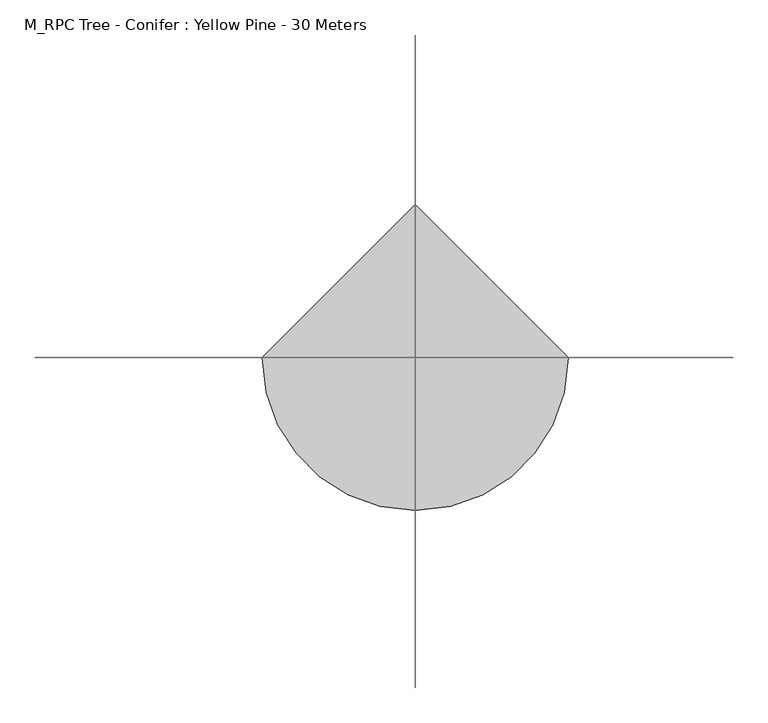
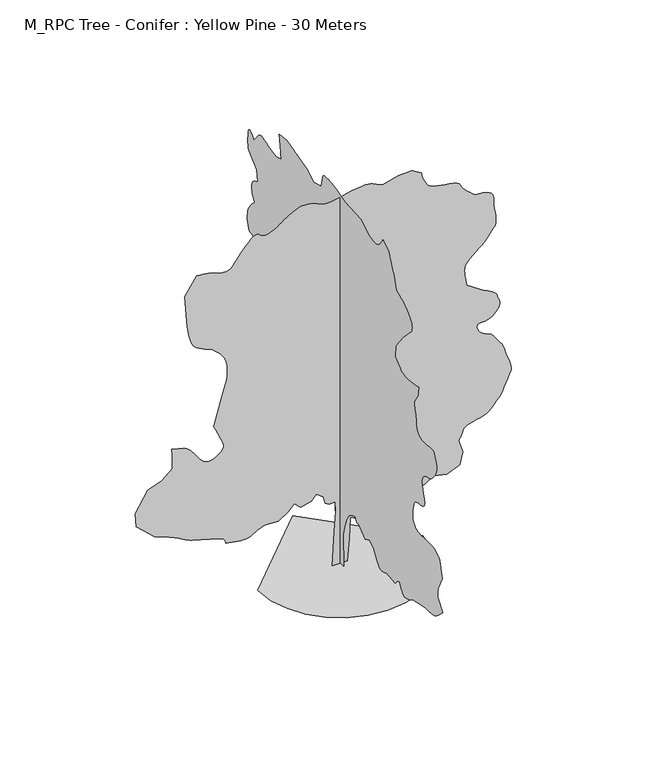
"""IFC4 building model written with IfcOpenShell, lengths in millimetres: geographic element geometry, M_RPC Tree - Conifer : Yellow Pine - 30 Meters."""

from ifc_helpers import new_model, si_unit, origin, place, context, project, spatial, triangles, source, transform, mapped, element, save


def m_rpc_tree_conifer_yellow_pine_30_meters_b7874818(model_context):
    return source(origin(), model_context, "Body", "Tessellation", [
        triangles([(0.1911075, 540.1071124, 0.0282224), (0.1911075, -497.4095733, 0.0282224), (0.1911075, -407.1894988, 2571.268634), (0.1911075, -587.6279763, 3338.1276398), (0.1911075, -858.2840212, 4059.8783524), (0.1911075, -1174.050939, 4556.0785881), (0.1911075, -1534.9262226, 4781.6287743), (0.1911075, -1986.0183105, 4962.0622375), (0.1911075, -2166.4600582, 4556.0785881), (0.1911075, -2482.226976, 4646.2954651), (0.1911075, -2843.1023323, 4285.4201088), (0.1911075, -3339.3025681, 3969.6530457), (0.1911075, -3925.7281105, 4240.3118156), (0.1911075, -4467.0369301, 3879.4364594), (0.1911075, -4827.9122864, 3247.9026237), (0.1911075, -4915.2371887, 3123.2273849), (0.1911075, -5004.5375519, 3004.4689362), (0.1911075, -5097.7789536, 2897.5522064), (0.1911075, -5196.945575, 2808.385556), (0.1911075, -5303.9960175, 2742.893914), (0.1911075, -5420.9127182, 2706.9856407), (0.1911075, -5549.662999, 2706.5938042), (0.1911075, -5673.1542984, 2728.5520569), (0.1911075, -5775.3463165, 2755.2521713), (0.1911075, -5859.7713959, 2785.8939056), (0.1911075, -5930.0048996, 2819.6938774), (0.1911075, -5989.5797516, 2855.8605652), (0.1911075, -6042.0550369, 2893.6105865), (0.1911075, -6090.9799576, 2932.1355606), (0.1911075, -7263.8223221, 2796.8106812), (0.1911075, -7379.4228241, 2930.3022423), (0.1911075, -7492.6560287, 3052.7357574), (0.1911075, -7601.1558014, 3153.0857368), (0.1911075, -7702.5560074, 3220.2859955), (0.1911075, -7794.4812103, 3243.3026138), (0.1911075, -7874.5728333, 3211.0859756), (0.1911075, -7940.4647415, 3112.5774536), (0.1911075, -8006.6147736, 2970.9358086), (0.1911075, -8088.5481445, 2824.5607315), (0.1911075, -8185.4730423, 2685.2855118), (0.1911075, -8296.6063751, 2564.9521591), (0.1911075, -8421.1731903, 2475.3936722), (0.1911075, -8558.3403992, 2428.443631), (0.1911075, -8707.3400253, 2435.9353249), (0.1911075, -8856.7570679, 2479.86026), (0.1911075, -8996.6741089, 2533.2520592), (0.1911075, -9128.6741913, 2594.5436668), (0.1911075, -9254.4240738, 2662.1439011), (0.1911075, -9375.4242462, 2734.4772766), (0.1911075, -9493.2577515, 2809.9604599), (0.1911075, -9609.5076324, 2887.0272675), (0.1911075, -11233.4259521, 3202.7943306), (0.1911075, -11436.0089355, 3203.1943062), (0.1911075, -11635.7595337, 3205.9525681), (0.1911075, -11830.0093048, 3213.4526917), (0.1911075, -12015.9258636, 3228.0442429), (0.1911075, -12190.8430939, 3252.1192268), (0.1911075, -12352.0100006, 3288.0193611), (0.1911075, -12496.5104828, 3338.1276398), (0.1911075, -12635.7601227, 3410.5860077), (0.1911075, -12782.176767, 3509.0945297), (0.1911075, -12934.4267761, 3629.30289), (0.1911075, -13091.5102112, 3766.8613541), (0.1911075, -13252.0934326, 3917.4448952), (0.1911075, -13415.0102325, 4076.7116272), (0.1911075, -13579.1769562, 4240.3118156), (0.1911075, -12947.5934143, 4962.0622375), (0.1911075, -12928.843396, 5097.2621246), (0.1911075, -12913.1769104, 5231.6707809), (0.1911075, -12903.8437592, 5364.495813), (0.1911075, -12903.927475, 5494.9628494), (0.1911075, -12916.6766968, 5622.2626373), (0.1911075, -12945.2598358, 5745.6295258), (0.1911075, -12992.7604248, 5864.2548431), (0.1911075, -13488.9278137, 6901.7723282), (0.1911075, -13173.1773193, 8164.831279), (0.1911075, -13148.4276672, 8199.6814774), (0.1911075, -13074.7600708, 8288.9818405), (0.1911075, -12953.0105255, 8409.8401611), (0.1911075, -12783.8441071, 8539.4235306), (0.1911075, -12568.1770386, 8654.7571884), (0.1911075, -12306.7592743, 8733.0070633), (0.1911075, -12000.3430939, 8751.2571121), (0.1911075, -11658.9255615, 8737.090535), (0.1911075, -11307.2586548, 8731.5071548), (0.1911075, -10968.1758636, 8732.3402435), (0.1911075, -10664.6746216, 8737.090535), (0.1911075, -10419.5081909, 8743.3401535), (0.1911075, -10255.6751678, 8748.9235336), (0.1911075, -10195.9253265, 8751.2571121), (0.1911075, -10160.9251373, 8775.0905411), (0.1911075, -10070.758548, 8842.2567902), (0.1911075, -9947.3416626, 8946.590538), (0.1911075, -9812.9242859, 9081.5904373), (0.1911075, -9689.5911163, 9241.1743011), (0.1911075, -9599.424527, 9418.8407822), (0.1911075, -9564.4243378, 9608.3408432), (0.1911075, -9571.0076569, 9797.674054), (0.1911075, -9589.424556, 9980.0082733), (0.1911075, -9617.6745758, 10156.3416962), (0.1911075, -9653.8409729, 10328.007962), (0.1911075, -9695.9244507, 10496.0918884), (0.1911075, -9741.9245499, 10661.7585205), (0.1911075, -9789.924527, 10826.2589447), (0.1911075, -9829.4244415, 10874.4257721), (0.1911075, -9873.5915131, 10921.3415131), (0.1911075, -9927.2580048, 10965.926001), (0.1911075, -9995.0910736, 11007.0083771), (0.1911075, -10081.9253082, 11043.25849), (0.1911075, -10192.4243774, 11073.675238), (0.1911075, -10331.2577637, 11096.9249817), (0.1911075, -10499.1754211, 11111.1752747), (0.1911075, -10680.5922546, 11127.7591461), (0.1911075, -10855.592038, 11165.5917206), (0.1911075, -11004.5922455, 11243.6753265), (0.1911075, -11107.8417572, 11381.0088043), (0.1911075, -11145.5917786, 11596.4258881), (0.1911075, -11098.0923523, 11908.9265808), (0.1911075, -11000.9250275, 12262.1759491), (0.1911075, -10911.675824, 12586.1771027), (0.1911075, -10843.6753235, 12879.5103607), (0.1911075, -10810.3424744, 13140.4269928), (0.1911075, -10825.2590057, 13367.4270905), (0.1911075, -10901.6752716, 13558.9270294), (0.1911075, -11053.0090576, 13713.2606323), (0.1911075, -11238.5919159, 13821.4272858), (0.1911075, -11410.759314, 13887.6778931), (0.1911075, -11572.5924591, 13931.0950104), (0.1911075, -11727.4260315, 13970.5112091), (0.1911075, -11878.259848, 14025.0113708), (0.1911075, -12028.3425476, 14113.3443512), (0.1911075, -12180.7599884, 14254.5950317), (0.1911075, -12336.0935303, 14434.261972), (0.1911075, -12484.2600677, 14625.761911), (0.1911075, -12612.7603638, 14829.8448029), (0.1911075, -12708.9265869, 15047.3454803), (0.1911075, -12760.0932312, 15279.0952881), (0.1911075, -12753.5936279, 15525.845343), (0.1911075, -12676.9273773, 15788.3455994), (0.1911075, -12584.3434937, 16036.5967255), (0.1911075, -12521.7601044, 16239.1797089), (0.1911075, -12463.9264252, 16394.3469818), (0.1911075, -12385.5102814, 16500.5963104), (0.1911075, -12261.3434418, 16556.3463959), (0.1911075, -12066.1762848, 16560.0136139), (0.1911075, -11774.7591888, 16510.0968933), (0.1911075, -11429.0093628, 16454.8467773), (0.1911075, -11096.6749969, 16443.7637329), (0.1911075, -10791.1750397, 16476.9303131), (0.1911075, -10525.9249512, 16554.2628021), (0.1911075, -10314.2588013, 16675.7635254), (0.1911075, -10169.7583191, 16841.5138733), (0.1911075, -10105.6750214, 17051.3464142), (0.1911075, -10083.7577545, 17275.5141266), (0.1911075, -10057.0919403, 17485.3478302), (0.1911075, -10026.4252075, 17683.4310883), (0.1911075, -9992.5912262, 17872.0137634), (0.1911075, -9956.4248291, 18053.5143127), (0.1911075, -9918.6748077, 18230.265152), (0.1911075, -9880.1748322, 18404.68125), (0.1911075, -9842.6747955, 18530.4317139), (0.1911075, -9812.3417633, 18656.5147156), (0.1911075, -9796.0915924, 18783.4313873), (0.1911075, -9801.2575562, 18911.5154297), (0.1911075, -9834.7578369, 19041.1819336), (0.1911075, -9903.8408295, 19172.8483154), (0.1911075, -10015.508432, 19306.8482758), (0.1911075, -10134.9243988, 19471.2661469), (0.1911075, -10225.0909882, 19677.4314697), (0.1911075, -10290.0916718, 19901.0154968), (0.1911075, -10333.7587738, 20117.5162354), (0.1911075, -10360.0920502, 20302.4328552), (0.1911075, -10372.9249878, 20431.2668518), (0.1911075, -10376.3410583, 20479.6825012), (0.1911075, -10309.841629, 20464.8508484), (0.1911075, -10131.2583435, 20427.0996643), (0.1911075, -9872.1741577, 20376.7655273), (0.1911075, -9564.174353, 20324.0152588), (0.1911075, -9238.7575882, 20279.1831116), (0.1911075, -8927.590535, 20252.4335815), (0.1911075, -8662.1735962, 20254.182312), (0.1911075, -8438.090181, 20293.1822571), (0.1911075, -8228.2152008, 20367.7660767), (0.1911075, -8030.1563599, 20471.934137), (0.1911075, -7841.5643829, 20599.7658691), (0.1911075, -7660.072554, 20745.3500061), (0.1911075, -7483.3228775, 20902.765979), (0.1911075, -7308.9306152, 21066.1001953), (0.1911075, -7354.0394897, 22013.4353943), (0.1911075, -8346.4231018, 23276.5187622), (0.1911075, -9474.1740326, 24449.351825), (0.1911075, -9491.8409775, 24594.7685303), (0.1911075, -9499.1742508, 24743.0199463), (0.1911075, -9486.0076126, 24896.7710266), (0.1911075, -9442.0911072, 25058.7704407), (0.1911075, -9357.1741974, 25231.8528992), (0.1911075, -9220.923793, 25418.6880066), (0.1911075, -9023.0905197, 25622.1872131), (0.1911075, -8791.0901459, 25817.7706238), (0.1911075, -8559.0903534, 25982.5210327), (0.1911075, -8327.114978, 26121.6869568), (0.1911075, -8095.1233246, 26240.2704163), (0.1911075, -7863.1310898, 26343.519928), (0.1911075, -7631.1394363, 26436.521228), (0.1911075, -7399.1477829, 26524.3554016), (0.1911075, -7331.4222656, 26755.687793), (0.1911075, -7263.2973541, 26983.1041443), (0.1911075, -7194.3806305, 27202.6046997), (0.1911075, -7124.2808395, 27410.2710938), (0.1911075, -7052.6055634, 27602.105896), (0.1911075, -6978.9641281, 27774.2721313), (0.1911075, -6902.9472565, 27922.7723694), (0.1911075, -6818.6471695, 28084.6880676), (0.1911075, -6725.6638916, 28284.4386658), (0.1911075, -6631.8969406, 28499.1883484), (0.1911075, -6545.2301376, 28706.0222351), (0.1911075, -6473.5554428, 28882.1905518), (0.1911075, -6424.7636536, 29004.6063354), (0.1911075, -6406.738591, 29050.5221375), (0.1911075, -5639.8795853, 29501.6062317), (0.1911075, -5600.5627991, 29423.857489), (0.1911075, -5557.296254, 29343.7740051), (0.1911075, -5506.1296097, 29258.9396484), (0.1911075, -5443.1375244, 29167.0243286), (0.1911075, -5364.3626816, 29065.6072632), (0.1911075, -5265.8541595, 28952.3560364), (0.1911075, -5143.6790588, 28824.9405579), (0.1911075, -4996.5124603, 28714.6054321), (0.1911075, -4828.0454178, 28649.2722107), (0.1911075, -4641.8204475, 28621.3553101), (0.1911075, -4441.3951813, 28623.4389038), (0.1911075, -4230.3118446, 28648.0234497), (0.1911075, -4012.1280693, 28687.6070801), (0.1911075, -3790.3948013, 28734.6902527), (0.1911075, -2797.9856094, 29411.3559265), (0.1911075, -632.7371778, 29546.6895264), (0.1911075, -353.0069412, 29623.6080872), (0.1911075, -76.8265606, 29698.1895813), (0.1911075, 192.2518189, 29768.0248535), (0.1911075, 450.6770333, 29830.7745117), (0.1911075, 694.8988632, 29884.0247498), (0.1911075, 921.36738, 29925.4408264), (0.1911075, 1126.5259329, 29952.6903259), (0.1911075, 1328.8010136, 29973.4402222), (0.1911075, 1540.5346012, 29991.8577026), (0.1911075, 1749.1180904, 30000.024646), (0.1911075, 1941.9182407, 29990.0229309), (0.1911075, 2106.3099506, 29954.0228027), (0.1911075, 2229.6684093, 29884.0247498), (0.1911075, 2299.3767998, 29772.2734314), (0.1911075, 2524.9185562, 28870.0238525), (0.1911075, 3517.3277481, 28599.4403687), (0.1911075, 4419.520063, 29140.6910522), (0.1911075, 5547.254425, 29411.3559265), (0.1911075, 7035.8641434, 29862.4400208), (0.1911075, 8028.2733353, 29727.1064209), (0.1911075, 7938.0480286, 28870.0238525), (0.1911075, 7757.6142746, 27877.6890747), (0.1911075, 8479.3399887, 27652.1051697), (0.1911075, 9201.0907013, 27787.4387695), (0.1911075, 9480.1742477, 27892.2719055), (0.1911075, 9751.7576706, 27988.021875), (0.1911075, 10008.3414276, 28065.6055115), (0.1911075, 10242.4248138, 28115.9396484), (0.1911075, 10446.5914215, 28130.0225098), (0.1911075, 10613.1754395, 28098.6895386), (0.1911075, 10734.8424316, 28012.9389587), (0.1911075, 11411.5092682, 27201.0210754), (0.1911075, 11565.2591858, 27380.7728943), (0.1911075, 11713.4257233, 27537.272644), (0.1911075, 11850.5929321, 27647.2729065), (0.1911075, 11971.1762695, 27687.3565063), (0.1911075, 12069.6760712, 27634.3550903), (0.1911075, 12140.5926727, 27464.9375244), (0.1911075, 12178.3426941, 27155.8540649), (0.1911075, 12189.7594391, 26812.605249), (0.1911075, 12187.0096069, 26547.5214294), (0.1911075, 12172.4267761, 26347.4382935), (0.1911075, 12148.3433624, 26199.5217407), (0.1911075, 12117.1766602, 26090.6051331), (0.1911075, 12081.2590851, 26007.7706543), (0.1911075, 12043.0090942, 25937.9377075), (0.1911075, 11005.5084686, 25080.8528137), (0.1911075, 10915.2581635, 24133.603656), (0.1911075, 11059.5086609, 24074.7700378), (0.1911075, 11199.5094177, 24011.2692627), (0.1911075, 11330.7595459, 23938.2690674), (0.1911075, 11448.925589, 23851.1022949), (0.1911075, 11549.8426849, 23744.9366821), (0.1911075, 11629.008783, 23615.1027466), (0.1911075, 11682.0927521, 23456.9356567), (0.1911075, 11702.4263947, 23282.9346497), (0.1911075, 11689.5097412, 23108.935968), (0.1911075, 11649.0098877, 22934.9349609), (0.1911075, 11586.4264984, 22760.9339539), (0.1911075, 11507.2592377, 22586.9352722), (0.1911075, 11417.0089325, 22412.9342651), (0.1911075, 11321.258963, 22238.9355835), (0.1911075, 11465.6757294, 22093.9351318), (0.1911075, 11606.5089935, 21948.4347107), (0.1911075, 11740.2589691, 21802.1831726), (0.1911075, 11863.3433167, 21654.7665894), (0.1911075, 11972.2599243, 21505.7663818), (0.1911075, 12063.4264526, 21354.7662964), (0.1911075, 12133.2593994, 21201.4337952), (0.1911075, 12183.3435516, 21052.017334), (0.1911075, 12219.259964, 20912.100293), (0.1911075, 12243.3433777, 20780.0990479), (0.1911075, 12257.9262085, 20654.3509094), (0.1911075, 12265.4269135, 20533.3489929), (0.1911075, 12268.1767456, 20415.5166504), (0.1911075, 12268.5929993, 20299.2656067), (0.1911075, 11997.9257996, 19532.4333435), (0.1911075, 11872.3427673, 19512.2648071), (0.1911075, 11747.0922729, 19487.4326019), (0.1911075, 11622.6754486, 19453.0986511), (0.1911075, 11499.4259949, 19404.5992859), (0.1911075, 11377.8427185, 19337.0987549), (0.1911075, 11258.0918884, 19245.9322266), (0.1911075, 11140.8420685, 19126.4325439), (0.1911075, 11034.0090546, 18984.515625), (0.1911075, 10943.8424652, 18830.7645447), (0.1911075, 10867.4250366, 18667.1815063), (0.1911075, 10802.0080994, 18495.6815094), (0.1911075, 10744.9255371, 18318.2644318), (0.1911075, 10693.4251923, 18136.9313141), (0.1911075, 10644.5921265, 17953.5971558), (0.1911075, 10539.0078735, 17808.514151), (0.1911075, 10437.7582397, 17663.0974457), (0.1911075, 10345.1755188, 17516.8470703), (0.1911075, 10265.5920044, 17369.3467712), (0.1911075, 10203.4248688, 17220.3465637), (0.1911075, 10162.8412994, 17069.4301941), (0.1911075, 10148.4247375, 16916.0965302), (0.1911075, 10193.5080322, 15698.0964569), (0.1911075, 10299.0911224, 15687.4296661), (0.1911075, 10400.424472, 15670.8457947), (0.1911075, 10493.0083557, 15642.5126404), (0.1911075, 10572.5081543, 15596.3456909), (0.1911075, 10634.7590057, 15526.5127441), (0.1911075, 10675.2588593, 15427.0118408), (0.1911075, 10689.7579742, 15292.0956573), (0.1911075, 10685.7582184, 15136.1784302), (0.1911075, 10674.7588898, 14977.7625183), (0.1911075, 10657.7587646, 14817.5118347), (0.1911075, 10636.0914825, 14655.5949738), (0.1911075, 10610.841861, 14492.5119049), (0.1911075, 10583.1749451, 14328.6777191), (0.1911075, 10554.4255371, 14164.3447266), (0.1911075, 10509.2585266, 13262.1777008), (0.1911075, 11366.3422577, 13307.3435486), (0.1911075, 12313.6762939, 13487.7604431), (0.1911075, 12515.2605011, 13419.5111206), (0.1911075, 12708.5940491, 13347.6771332), (0.1911075, 12885.3437256, 13268.7610199), (0.1911075, 13037.2600342, 13179.1769531), (0.1911075, 13156.0109253, 13075.4274719), (0.1911075, 13233.3434143, 12953.9267487), (0.1911075, 13260.9277771, 12811.0936066), (0.1911075, 13253.0933716, 12630.1767426), (0.1911075, 13231.0109985, 12401.8430054), (0.1911075, 13197.0107483, 12134.0930695), (0.1911075, 13153.6773468, 11834.7590149), (0.1911075, 13103.1769409, 11511.758963), (0.1911075, 13047.926825, 11172.9261566), (0.1911075, 12990.3442932, 10826.2589447), (0.1911075, 12584.3434937, 9743.6744431), (0.1911075, 12362.5930756, 9619.2576187), (0.1911075, 12144.4261597, 9502.340918), (0.1911075, 11933.3425323, 9400.4244644), (0.1911075, 11732.9256958, 9321.0072189), (0.1911075, 11546.6754364, 9271.5073334), (0.1911075, 11378.1752563, 9259.5906189), (0.1911075, 11231.0086578, 9292.5909302), (0.1911075, 9968.007843, 9833.8416138), (0.1911075, 8704.9238937, 9427.9239487), (0.1911075, 7802.7231491, 8796.3404068), (0.1911075, 6900.5386826, 7443.0811478), (0.1911075, 6813.2137802, 7308.53936), (0.1911075, 6723.9139984, 7178.7391434), (0.1911075, 6630.6638763, 7058.4057907), (0.1911075, 6531.505394, 6952.2721527), (0.1911075, 6424.4549515, 6865.0803818), (0.1911075, 6307.5382507, 6801.5551895), (0.1911075, 6178.7885513, 6766.4387283), (0.1911075, 6050.2963943, 6754.7388611), (0.1911075, 5929.6961975, 6755.6556656), (0.1911075, 5808.3047699, 6765.255661), (0.1911075, 5677.4546173, 6779.5885071), (0.1911075, 5528.4462708, 6794.7137466), (0.1911075, 5352.6128174, 6806.6804581), (0.1911075, 5141.2710663, 6811.5470215), (0.1911075, 4914.5372314, 6794.4556229), (0.1911075, 4697.2786903, 6746.5806381), (0.1911075, 4487.9036797, 6673.0636139), (0.1911075, 4284.8451439, 6579.0304001), (0.1911075, 4086.5200401, 6469.6132416), (0.1911075, 3891.3531738, 6349.9385696), (0.1911075, 3697.7696411, 6225.1299088), (0.1911075, 3427.1111618, 5458.270903), (0.1911075, 2660.2521561, 4601.1868813), (0.1911075, 2554.3769325, 4486.5034744), (0.1911075, 2431.9435627, 4374.1952133), (0.1911075, 2295.693449, 4263.8534019), (0.1911075, 2148.3934284, 4155.0949242), (0.1911075, 1992.8099018, 4047.5116653), (0.1911075, 1831.7098515, 3940.728067), (0.1911075, 1667.8429642, 3834.3281662), (0.1911075, 1397.1844849, 4781.6287743), (0.1911075, 946.0923969, 5413.1544708), (0.1911075, 765.6547915, 5007.1705307), (0.1911075, 630.3254791, 4375.6451248), (0.1911075, 585.2171496, 3247.9026237), (0.1911075, 494.9979109, 1669.0763191), (559.1288074, 0.0014306, 0.0714378), (-613.7138477, 0.0014306, 0.0714378), (-433.277841, 0.0012695, 2706.6353714), (-343.0586022, 0.0011748, 4285.461676), (-388.1678038, 0.0011266, 5097.4376953), (-839.2623625, 0.0011291, 5052.3288208), (-1155.0292803, 0.0011188, 5232.7625748), (-1290.3543777, 0.0010835, 5819.1878265), (-1831.6714817, 0.001062, 6180.0634735), (-2192.546838, 0.0010861, 5774.0795334), (-3004.5139915, 0.0010999, 5548.5293472), (-3500.722657, 0.0010732, 5999.6215805), (-3996.9231834, 0.0011024, 5503.4210541), (-4718.6736053, 0.0011291, 5052.3288208), (-5801.2999649, 0.0011266, 5097.4376953), (-6342.6087845, 0.0011403, 4871.8872185), (-6458.8755249, 0.0011455, 4785.47883), (-6576.7090302, 0.0011507, 4702.6286545), (-6697.7004822, 0.001155, 4626.878627), (-6823.4340866, 0.0011584, 4561.7785309), (-6955.4754456, 0.0011619, 4510.8787308), (-7095.4006256, 0.0011636, 4477.7368584), (-7244.8008087, 0.0011645, 4465.903569), (-7411.3011108, 0.0011645, 4471.161969), (-7599.1012756, 0.0011636, 4485.895372), (-7804.6515198, 0.0011619, 4508.5120148), (-8024.418338, 0.0011601, 4537.4454231), (-8254.8269485, 0.0011584, 4571.1119728), (-8492.3101273, 0.0011558, 4607.9370506), (-8733.3936676, 0.0011541, 4646.345462), (-8744.5604279, 0.0011481, 4742.7453918), (-8764.8103546, 0.0011421, 4837.5622787), (-8803.2271957, 0.0011369, 4929.2287766), (-8868.8941177, 0.0011317, 5016.1624237), (-8970.8105713, 0.0011266, 5096.7790146), (-9118.0608856, 0.0011222, 5169.5042267), (-9319.8107803, 0.0011188, 5232.7625748), (-11304.6460236, 0.0010835, 5819.1878265), (-11466.6454376, 0.0010809, 5870.6044556), (-11639.7290588, 0.0010766, 5943.3378067), (-11818.3135071, 0.0010714, 6031.0545456), (-11996.8967926, 0.0010654, 6127.4550568), (-12169.9804138, 0.0010594, 6226.2217026), (-12332.0635437, 0.0010542, 6321.0467285), (-12477.480249, 0.001049, 6405.6049393), (-12633.8974457, 0.0010439, 6486.8802109), (-12828.1472168, 0.0010387, 6575.2637695), (-13053.8973907, 0.0010327, 6669.5551071), (-13304.9809021, 0.0010275, 6768.5885971), (-13574.9807007, 0.0010215, 6871.1724518), (-13857.5646149, 0.0010146, 6976.1137207), (-14146.5644165, 0.0010086, 7082.2473587), (-15544.8988312, 0.0009302, 8390.4233231), (-15635.1491364, 0.0008656, 9473.0078247), (-14687.8151001, 0.0007743, 11006.7583923), (-13605.2311798, 0.0007502, 11412.7591919), (-12793.2307434, 0.0007097, 12089.4260284), (-12793.2307434, 0.0006485, 13126.9266541), (-12838.3965912, 0.0006158, 13668.2610535), (-11891.0625549, 0.0006296, 13442.6771484), (-11784.3958099, 0.0006339, 13373.9278564), (-11675.8129028, 0.0006382, 13298.4278137), (-11563.2290771, 0.0006434, 13209.5111481), (-11444.7293335, 0.0006494, 13100.5108246), (-11318.3126312, 0.000658, 12964.5935394), (-11182.0628082, 0.0006684, 12795.2596893), (-11033.9788239, 0.0006804, 12585.5934174), (-10883.8949615, 0.0006933, 12365.3429077), (-10739.3956421, 0.0007054, 12171.0931366), (-10594.8951599, 0.0007149, 12006.8426971), (-10444.8112976, 0.0007226, 11876.5099548), (-10283.7281067, 0.0007286, 11784.009787), (-10106.0610443, 0.0007312, 11733.4256653), (-9906.2278931, 0.0007312, 11728.5096863), (-9687.8109924, 0.0007286, 11778.50896), (-9467.8110489, 0.0007226, 11879.7597565), (-9261.1440125, 0.000714, 12017.343219), (-9082.977562, 0.0007045, 12176.1765472), (-8948.1439316, 0.0006951, 12341.3432098), (-8871.7270844, 0.0006856, 12497.8429596), (-8868.7272675, 0.0006778, 12630.676712), (-8921.8937897, 0.0006692, 12774.3435242), (-9001.0604691, 0.000658, 12967.6770721), (-9101.8938492, 0.0006434, 13202.4266968), (-9220.1441895, 0.0006279, 13470.2603485), (-9351.3943176, 0.0006106, 13763.011084), (-9491.3113586, 0.0005917, 14072.3445282), (-9635.5612747, 0.0005727, 14390.0111847), (-9004.0608673, 0.0004358, 16690.5137878), (-8917.6440491, 0.0004203, 16950.9304504), (-8834.810733, 0.0004048, 17207.7636108), (-8759.0607056, 0.0003902, 17457.5134827), (-8693.9768875, 0.0003755, 17696.6802795), (-8643.060228, 0.0003626, 17921.5142303), (-8609.8936478, 0.0003497, 18128.6806549), (-8598.0606491, 0.0003393, 18314.5146606), (-8601.1436005, 0.0003281, 18495.8477783), (-8611.2272873, 0.000317, 18688.2651031), (-8630.0604401, 0.0003049, 18886.1820923), (-8659.1435486, 0.0002928, 19084.0990814), (-8699.9771027, 0.0002816, 19276.5152435), (-8754.3104141, 0.0002704, 19457.8483612), (-8823.6439728, 0.000261, 19622.6813232), (-8912.8106232, 0.0002515, 19776.0161499), (-9023.3108551, 0.0002429, 19927.0162354), (-9151.4774506, 0.0002343, 20076.0164429), (-9293.894339, 0.0002248, 20223.4330261), (-9446.9774368, 0.0002162, 20369.6822388), (-9607.2281204, 0.0002076, 20515.0989441), (-9770.8942932, 0.000199, 20660.1831116), (-10030.8109863, 0.0001929, 20766.6835876), (-10283.9780914, 0.000186, 20874.4328247), (-10523.7285736, 0.00018, 20984.516803), (-10743.3116821, 0.0001731, 21098.1005676), (-10936.1452606, 0.0001662, 21216.5165955), (-11095.3960052, 0.0001585, 21340.7671509), (-11214.3957184, 0.0001507, 21472.1847107), (-11308.0620941, 0.0001404, 21647.3507629), (-11394.646344, 0.0001266, 21884.8502197), (-11472.4788025, 0.0001102, 22158.684668), (-11540.0630493, 9.3e-05, 22442.7673279), (-11595.8131348, 7.67e-05, 22711.018396), (-11638.1465973, 6.37e-05, 22937.5185242), (-11665.5623657, 5.43e-05, 23096.1018677), (-11845.9792603, -9.65e-05, 25622.1872131), (-10943.7285187, -0.00018, 27020.6041809), (-10702.7292755, -0.0001783, 26991.2710876), (-10465.228656, -0.0001766, 26960.0218323), (-10234.8113251, -0.000174, 26924.7704956), (-10014.9782318, -0.0001714, 26883.6055664), (-9809.4779846, -0.0001688, 26834.5225159), (-9621.6446823, -0.0001654, 26775.6051819), (-9455.1443802, -0.0001611, 26704.8536865), (-9285.8942459, -0.0001568, 26636.4369324), (-9095.3105301, -0.0001542, 26588.6049683), (-8895.3105286, -0.0001524, 26565.187793), (-8697.6435242, -0.0001533, 26570.1874878), (-8514.1436783, -0.000155, 26607.5224182), (-8356.727124, -0.0001593, 26681.1876892), (-8237.2018616, -0.0001662, 26795.0202759), (-7515.451149, -0.0002231, 27742.3554749), (-7322.6512894, -0.000236, 27963.0234009), (-7133.0093765, -0.0002489, 28173.854718), (-6949.6839386, -0.0002601, 28364.9384033), (-6775.8172256, -0.0002696, 28526.4401733), (-6614.5840439, -0.0002773, 28648.5234192), (-6469.1254807, -0.0002816, 28721.1887512), (-6342.6087845, -0.0002825, 28734.7739685), (-6240.8167419, -0.0002799, 28700.8574341), (-6157.9665665, -0.0002765, 28645.6073181), (-6079.849823, -0.000273, 28580.8554565), (-5992.2580765, -0.0002696, 28518.522052), (-5880.9997513, -0.0002661, 28470.4389404), (-5731.8582733, -0.0002653, 28448.3565674), (-5530.6414856, -0.0002661, 28464.1067688), (-5290.2329041, -0.0002704, 28532.5235229), (-5043.5159866, -0.0002765, 28646.6886475), (-4806.2569221, -0.0002851, 28786.0220032), (-4594.256781, -0.0002937, 28930.1899475), (-4423.2901817, -0.0003014, 29058.5239746), (-4309.1317429, -0.0003066, 29150.6067261), (-4267.573233, -0.0003092, 29185.8557373), (-4216.681572, -0.0003109, 29218.4397949), (-4081.3564018, -0.0003161, 29303.1904358), (-3887.631308, -0.000323, 29420.190271), (-3661.5561539, -0.0003307, 29549.8567749), (-3429.1726639, -0.0003376, 29672.4399902), (-3216.5141327, -0.0003436, 29768.1899597), (-3049.6222847, -0.0003462, 29817.3567261), (-2891.2804962, -0.0003471, 29828.2746643), (-2694.2721725, -0.0003471, 29821.8564514), (-2469.6469299, -0.0003454, 29797.274231), (-2228.4468269, -0.0003428, 29753.7745605), (-1981.7299095, -0.0003393, 29690.5226074), (-1740.5298065, -0.0003342, 29606.6905151), (-1515.9045639, -0.0003281, 29501.6062317), (-1276.9460392, -0.000323, 29415.8579773), (-990.6374977, -0.0003213, 29384.6063965), (-664.8747511, -0.0003213, 29398.6892578), (-307.5502318, -0.0003247, 29449.0233948), (73.4468159, -0.000329, 29526.6070313), (470.2254041, -0.000335, 29622.3570007), (874.897324, -0.0003411, 29727.1901367), (1154.2309278, -0.0003436, 29765.0227112), (1427.6477417, -0.0003454, 29798.1904541), (1689.2313389, -0.0003471, 29821.8564514), (1933.0565723, -0.0003471, 29831.358197), (2153.2150818, -0.0003471, 29821.8564514), (2343.7817928, -0.0003445, 29788.6910339), (2498.8320671, -0.0003411, 29727.1901367), (2628.8988373, -0.0003368, 29655.1061646), (2749.4990341, -0.0003333, 29592.523938), (2862.2072708, -0.0003299, 29537.7737915), (2968.5990326, -0.0003273, 29489.3558167), (3070.2657921, -0.0003247, 29445.7724304), (3168.7658844, -0.0003221, 29405.1911865), (3265.6910728, -0.0003195, 29366.2726318), (4438.533728, -0.0003385, 29682.0231262), (5476.0506317, -0.0003411, 29727.1901367), (6197.8100647, -0.000317, 29321.1893372), (6208.1931519, -0.0003109, 29214.4400391), (6222.9265549, -0.000304, 29104.8560303), (6246.3350098, -0.0002971, 28989.7723572), (6282.768251, -0.0002903, 28866.4403503), (6336.5515961, -0.0002816, 28732.0229736), (6412.0434998, -0.000273, 28583.7738831), (6513.5681168, -0.0002636, 28419.0234741), (6615.6270035, -0.0002541, 28268.1884949), (6700.3183456, -0.000248, 28156.7720398), (6783.4353653, -0.0002429, 28074.6049622), (6880.7602386, -0.0002386, 28011.2716187), (7008.0606079, -0.000236, 27956.6889038), (7181.1355087, -0.0002325, 27900.6062805), (7415.7607224, -0.0002282, 27832.60578), (7704.9610931, -0.0002248, 27767.105127), (8017.0443695, -0.0002213, 27717.3546753), (8330.7031311, -0.0002188, 27671.6063049), (8624.6200745, -0.0002153, 27617.9398132), (8877.5371948, -0.000211, 27544.5210388), (9068.1203293, -0.000205, 27439.604187), (9175.037059, -0.0001964, 27291.2713806), (9254.0374695, -0.000186, 27118.6051758), (9370.9541702, -0.0001757, 26948.2713867), (9519.4538269, -0.0001654, 26779.9374756), (9693.2042679, -0.0001559, 26613.1871887), (9885.8709961, -0.0001456, 26447.6042725), (10091.1212585, -0.0001361, 26282.8538635), (10302.7885712, -0.0001257, 26118.4383179), (10600.3715698, -0.000124, 26087.937854), (10885.789032, -0.0001223, 26048.3542236), (11146.7056641, -0.0001189, 25990.6042603), (11370.9559296, -0.0001137, 25905.6047974), (11546.2056976, -0.0001059, 25784.3540588), (11660.3719849, -9.65e-05, 25617.7712036), (11701.1229858, -8.35e-05, 25396.6870239), (11703.7891022, -6.98e-05, 25166.3545715), (11711.1223755, -5.77e-05, 24974.0197998), (11722.4554047, -4.82e-05, 24813.1040405), (11736.9556824, -4.05e-05, 24677.5192932), (11753.7895386, -3.36e-05, 24560.9357117), (11772.2058563, -2.67e-05, 24456.8536926), (11791.3721283, -2.15e-05, 24359.1852356), (11829.1221497, -7.8e-06, 24127.9365601), (11861.3725067, 6e-06, 23901.5201477), (11882.5398193, 1.89e-05, 23684.5194397), (11887.1220978, 3.1e-05, 23481.6853088), (11869.6231659, 4.22e-05, 23297.8523438), (11824.5398712, 5.17e-05, 23137.685376), (11746.2888336, 5.94e-05, 23005.8515625), (11646.4553925, 6.72e-05, 22879.5174133), (11538.7061554, 7.58e-05, 22734.9355408), (11420.7889343, 8.53e-05, 22576.1847656), (11290.2050446, 9.47e-05, 22407.1834534), (11144.6220703, 0.0001051, 22231.9336853), (10981.6215546, 0.0001163, 22054.2677856), (10798.9547974, 0.0001266, 21878.1017944), (10586.8712311, 0.0001378, 21696.5175293), (10350.2042816, 0.000149, 21502.2665955), (10108.8713379, 0.0001611, 21299.3510742), (9882.5374786, 0.0001731, 21091.6846802), (9690.9544052, 0.000186, 20883.2671692), (9553.7871964, 0.0001981, 20677.9331909), (9490.7875534, 0.0002102, 20479.766217), (9480.7038666, 0.0002213, 20283.7665527), (9487.1209167, 0.0002334, 20083.0997314), (9507.3708435, 0.0002455, 19878.4331543), (9538.7043961, 0.0002584, 19670.6830444), (9578.2874451, 0.0002704, 19460.5156403), (9623.3707397, 0.0002834, 19248.7657745), (9671.2044479, 0.0002963, 19036.2647919), (11024.5387024, 0.0003497, 18134.0140503), (11076.9552704, 0.0003514, 18110.6805908), (11212.2888702, 0.0003548, 18046.1810394), (11397.371759, 0.0003609, 17949.431131), (11598.9559662, 0.0003678, 17828.9315094), (11784.038855, 0.0003764, 17693.5141937), (11919.3724548, 0.0003841, 17551.6809906), (11971.7890228, 0.0003927, 17412.2639191), (11999.9559082, 0.0004005, 17280.6800903), (12064.3729065, 0.0004082, 17149.0137085), (12135.1232391, 0.0004169, 17006.3468353), (12182.2064117, 0.0004272, 16841.5138733), (12175.6230927, 0.0004384, 16643.5968842), (12085.4565033, 0.000453, 16401.5128235), (11881.6224335, 0.0004711, 16104.0960938), (11600.4558746, 0.0004858, 15851.0964203), (11311.3723572, 0.0004935, 15720.3462616), (11034.1218384, 0.000497, 15668.595932), (10788.4554382, 0.0004978, 15652.2620453), (10594.0382355, 0.0004995, 15628.0123627), (10470.7050659, 0.0005038, 15552.5960358), (10438.1210083, 0.0005142, 15382.3459625), (10485.037912, 0.0005262, 15170.0949646), (10581.7052673, 0.0005366, 14993.3452881), (10719.7886993, 0.0005461, 14846.1786896), (10891.0387115, 0.0005529, 14722.6780884), (11087.1220917, 0.000559, 14616.9287292), (11299.7893433, 0.000565, 14523.0949219), (11520.7060913, 0.0005702, 14435.0944794), (11741.5391235, 0.0005865, 14155.7615295), (11953.2889893, 0.0006029, 13882.3444977), (12146.872522, 0.0006184, 13620.7604645), (12313.2065552, 0.000633, 13376.9276733), (12443.2893127, 0.0006468, 13156.7608795), (12527.9562378, 0.000658, 12966.1771637), (12558.2067169, 0.0006666, 12811.1773224), (12595.0393524, 0.0006778, 12625.6770172), (12687.1232666, 0.0006942, 12360.5931976), (12806.7903809, 0.0007123, 12046.5100433), (12926.4563324, 0.0007321, 11714.3431091), (13018.5402466, 0.000751, 11394.7591278), (13055.3740448, 0.0007683, 11118.5922638), (13009.2908112, 0.0007803, 10916.5092499), (12902.3729187, 0.0007915, 10717.0086365), (12778.123526, 0.0008079, 10447.3413757), (12641.2063019, 0.0008268, 10136.5080231), (12496.4569977, 0.0008458, 9813.9242249), (12348.4567291, 0.0008639, 9508.6742523), (12202.1226379, 0.0008794, 9250.0074829), (12062.039328, 0.0008906, 9067.090741), (11926.2057587, 0.0008992, 8922.1740051), (11787.2061035, 0.0009087, 8763.7569305), (11641.8719513, 0.0009181, 8600.6732803), (11487.0395416, 0.0009276, 8441.5899673), (11319.6218536, 0.0009362, 8295.0733292), (11136.455127, 0.000944, 8169.8734131), (10934.2883972, 0.0009491, 8074.6565506), (10695.3715851, 0.0009534, 8004.0312103), (10420.0383911, 0.0009577, 7940.5147385), (10132.9547516, 0.0009612, 7874.6228302), (9858.5377808, 0.0009655, 7796.8979233), (9621.1208771, 0.0009715, 7697.8725723), (9445.2874237, 0.0009793, 7568.0642166), (9355.4539536, 0.0009896, 7398.0141312), (9307.370842, 0.0009999, 7227.5722092), (9246.5373459, 0.0010077, 7095.0058823), (9182.6203171, 0.0010137, 6988.4804077), (9125.037204, 0.0010198, 6896.1552292), (9083.2037109, 0.0010249, 6806.197348), (9066.6204208, 0.001031, 6706.7720215), (9084.7873352, 0.0010378, 6586.0468323), (9355.4539536, 0.0010895, 5728.9712402), (9129.9537643, 0.0011481, 4736.5620483), (8137.5114349, 0.0011722, 4330.5783989), (7145.102243, 0.0011593, 4556.120446), (6152.6930511, 0.0011963, 3924.5947495), (5430.9423386, 0.0011722, 4330.5783989), (4393.4254349, 0.0011455, 4781.6706322), (4325.4336548, 0.0011481, 4742.0788628), (4255.4669952, 0.0011507, 4696.9702789), (4181.5584251, 0.0011541, 4640.8205086), (4101.7252167, 0.0011584, 4568.0868668), (4014.0084778, 0.0011636, 4473.2702705), (3916.4248993, 0.0011713, 4350.8286163), (3807.0080315, 0.0011808, 4195.2450897), (3692.3246246, 0.0011903, 4031.7698936), (3580.0163635, 0.0011989, 3887.2365646), (3469.6745522, 0.0012067, 3758.4862839), (3360.9079353, 0.0012135, 3642.3611046), (3253.3328156, 0.0012196, 3535.7027893), (3146.5410782, 0.0012256, 3435.3609489), (3040.1493164, 0.0012316, 3338.169207), (3175.4741959, 0.0012885, 2390.8685989), (3097.7492889, 0.0012902, 2362.3268818), (3017.657666, 0.0012911, 2336.5518562), (2932.8326111, 0.0012928, 2316.3017841), (2840.8989784, 0.0012936, 2304.335218), (2739.5072021, 0.0012936, 2303.4185589), (2626.2739975, 0.0012928, 2316.3017841), (2498.8320671, 0.0012911, 2345.7601604), (2366.1318821, 0.0012876, 2394.9436409), (2238.1734135, 0.0012842, 2463.0685524), (2114.1567101, 0.001279, 2546.9770935), (1993.2899597, 0.001273, 2643.5104454), (1874.7982098, 0.0012669, 2749.5106613), (1757.8813637, 0.0012601, 2861.8189224), (1641.7563297, 0.0012532, 2977.2941414), (784.6747787, 0.0012265, 3428.386084), (694.4588465, 0.0013255, 1759.3347633), (-6288.3754669, 0.0, 0.0), (-6122.1251495, -1440.9261463, 0.0), (-5648.6493988, -2764.1856377, 0.0), (-4905.8575287, -3931.8614571, 0.0), (-3931.6646667, -4906.0540283, 0.0), (-2763.9888474, -5648.8458984, 0.0), (-1440.7295013, -6122.3216492, 0.0), (0.196946, -6288.5719666, 0.0), (1441.1227913, -6122.3216492, 0.0), (2764.382428, -5648.8458984, 0.0), (3932.0582474, -4906.0540283, 0.0), (4906.250528, -3931.8614571, 0.0), (5649.0423981, -2764.1856377, 0.0), (6122.5181488, -1440.9261463, 0.0), (6288.7684662, 0.0005495, 0.0), (0.1958464, 6288.5719666, 0.0)], [[407, 408, 409], [173, 174, 175], [406, 407, 409], [219, 220, 221], [1, 2, 3], [414, 1, 3], [413, 414, 3], [413, 3, 4], [412, 413, 4], [412, 4, 5], [255, 256, 257], [219, 221, 222], [65, 66, 67], [405, 406, 409], [8, 9, 10], [219, 222, 223], [404, 405, 409], [64, 65, 67], [412, 5, 6], [411, 412, 6], [403, 404, 409], [219, 223, 224], [172, 173, 175], [172, 175, 176], [171, 172, 176], [171, 176, 177], [170, 171, 177], [254, 255, 257], [254, 257, 258], [402, 403, 409], [63, 64, 67], [218, 219, 224], [401, 402, 409], [218, 224, 225], [217, 218, 225], [312, 313, 314], [216, 217, 225], [216, 225, 226], [170, 177, 178], [169, 170, 178], [168, 169, 178], [167, 168, 178], [167, 178, 179], [166, 167, 179], [166, 179, 180], [165, 166, 180], [11, 12, 13], [216, 226, 227], [215, 216, 227], [400, 401, 409], [400, 409, 410], [399, 400, 410], [29, 30, 31], [62, 63, 67], [214, 215, 227], [214, 227, 228], [410, 411, 6], [410, 6, 7], [165, 180, 181], [164, 165, 181], [312, 314, 315], [61, 62, 67], [213, 214, 228], [60, 61, 67], [59, 60, 67], [58, 59, 67], [57, 58, 67], [56, 57, 67], [55, 56, 67], [54, 55, 67], [53, 54, 67], [52, 53, 67], [52, 67, 68], [52, 68, 69], [253, 254, 258], [252, 253, 258], [29, 31, 32], [271, 272, 273], [271, 273, 274], [270, 271, 274], [270, 274, 275], [269, 270, 275], [268, 269, 275], [268, 275, 276], [268, 276, 277], [268, 277, 278], [268, 278, 279], [268, 279, 280], [268, 280, 281], [268, 281, 282], [268, 282, 283], [267, 268, 283], [266, 267, 283], [265, 266, 283], [264, 265, 283], [263, 264, 283], [262, 263, 283], [261, 262, 283], [260, 261, 283], [259, 260, 283], [259, 283, 284], [52, 69, 70], [212, 213, 228], [212, 228, 229], [211, 212, 229], [210, 211, 229], [209, 210, 229], [208, 209, 229], [10, 11, 13], [163, 164, 181], [163, 181, 182], [312, 315, 316], [51, 52, 70], [51, 70, 71], [51, 71, 72], [207, 208, 229], [207, 229, 230], [206, 207, 230], [366, 367, 368], [74, 75, 76], [74, 76, 77], [74, 77, 78], [74, 78, 79], [74, 79, 80], [74, 80, 81], [74, 81, 82], [74, 82, 83], [74, 83, 84], [74, 84, 85], [74, 85, 86], [73, 74, 86], [73, 86, 87], [73, 87, 88], [72, 73, 88], [51, 72, 88], [51, 88, 89], [51, 89, 90], [51, 90, 91], [51, 91, 92], [51, 92, 93], [50, 51, 93], [49, 50, 93], [48, 49, 93], [47, 48, 93], [46, 47, 93], [45, 46, 93], [44, 45, 93], [43, 44, 93], [42, 43, 93], [41, 42, 93], [40, 41, 93], [39, 40, 93], [38, 39, 93], [37, 38, 93], [36, 37, 93], [35, 36, 93], [35, 93, 94], [34, 35, 94], [34, 94, 95], [34, 95, 96], [33, 34, 96], [205, 206, 230], [258, 259, 284], [252, 258, 284], [29, 32, 33], [29, 33, 96], [29, 96, 97], [311, 312, 316], [190, 191, 192], [190, 192, 193], [190, 193, 194], [190, 194, 195], [190, 195, 196], [190, 196, 197], [190, 197, 198], [190, 198, 199], [190, 199, 200], [190, 200, 201], [190, 201, 202], [190, 202, 203], [190, 203, 204], [190, 204, 205], [189, 190, 205], [189, 205, 230], [189, 230, 231], [189, 231, 232], [189, 232, 233], [189, 233, 234], [410, 7, 8], [310, 311, 316], [310, 316, 317], [309, 310, 317], [308, 309, 317], [307, 308, 317], [306, 307, 317], [305, 306, 317], [304, 305, 317], [303, 304, 317], [302, 303, 317], [302, 317, 318], [301, 302, 318], [300, 301, 318], [299, 300, 318], [299, 318, 319], [298, 299, 319], [298, 319, 320], [162, 163, 182], [366, 368, 369], [298, 320, 321], [366, 369, 370], [366, 370, 371], [366, 371, 372], [366, 372, 373], [366, 373, 374], [366, 374, 375], [365, 366, 375], [364, 365, 375], [363, 364, 375], [362, 363, 375], [361, 362, 375], [360, 361, 375], [359, 360, 375], [358, 359, 375], [357, 358, 375], [356, 357, 375], [355, 356, 375], [354, 355, 375], [353, 354, 375], [352, 353, 375], [351, 352, 375], [350, 351, 375], [350, 375, 376], [234, 235, 236], [189, 234, 236], [188, 189, 236], [188, 236, 237], [188, 237, 238], [188, 238, 239], [188, 239, 240], [188, 240, 241], [188, 241, 242], [188, 242, 243], [188, 243, 244], [188, 244, 245], [188, 245, 246], [188, 246, 247], [188, 247, 248], [188, 248, 249], [188, 249, 250], [188, 250, 251], [188, 251, 252], [188, 252, 284], [187, 188, 284], [187, 284, 285], [187, 285, 286], [187, 286, 287], [187, 287, 288], [187, 288, 289], [187, 289, 290], [187, 290, 291], [187, 291, 292], [187, 292, 293], [187, 293, 294], [187, 294, 295], [187, 295, 296], [187, 296, 297], [187, 297, 298], [187, 298, 321], [187, 321, 322], [187, 322, 323], [187, 323, 324], [187, 324, 325], [187, 325, 326], [187, 326, 327], [187, 327, 328], [187, 328, 329], [187, 329, 330], [187, 330, 331], [187, 331, 332], [187, 332, 333], [187, 333, 334], [187, 334, 335], [186, 187, 335], [185, 186, 335], [184, 185, 335], [183, 184, 335], [182, 183, 335], [162, 182, 335], [161, 162, 335], [160, 161, 335], [159, 160, 335], [158, 159, 335], [157, 158, 335], [156, 157, 335], [155, 156, 335], [154, 155, 335], [153, 154, 335], [152, 153, 335], [151, 152, 335], [150, 151, 335], [350, 376, 377], [142, 143, 144], [142, 144, 145], [141, 142, 145], [141, 145, 146], [140, 141, 146], [140, 146, 147], [139, 140, 147], [138, 139, 147], [137, 138, 147], [136, 137, 147], [135, 136, 147], [134, 135, 147], [133, 134, 147], [133, 147, 148], [132, 133, 148], [131, 132, 148], [130, 131, 148], [129, 130, 148], [128, 129, 148], [127, 128, 148], [127, 148, 149], [126, 127, 149], [125, 126, 149], [125, 149, 150], [125, 150, 335], [124, 125, 335], [123, 124, 335], [122, 123, 335], [121, 122, 335], [120, 121, 335], [119, 120, 335], [118, 119, 335], [117, 118, 335], [116, 117, 335], [115, 116, 335], [114, 115, 335], [113, 114, 335], [112, 113, 335], [111, 112, 335], [110, 111, 335], [109, 110, 335], [108, 109, 335], [107, 108, 335], [106, 107, 335], [105, 106, 335], [104, 105, 335], [103, 104, 335], [102, 103, 335], [101, 102, 335], [100, 101, 335], [99, 100, 335], [98, 99, 335], [97, 98, 335], [29, 97, 335], [28, 29, 335], [27, 28, 335], [26, 27, 335], [25, 26, 335], [25, 335, 336], [25, 336, 337], [25, 337, 338], [349, 350, 377], [339, 340, 341], [338, 339, 341], [338, 341, 342], [338, 342, 343], [338, 343, 344], [338, 344, 345], [338, 345, 346], [348, 349, 377], [347, 348, 377], [346, 347, 377], [338, 346, 377], [20, 21, 22], [19, 20, 22], [19, 22, 23], [18, 19, 23], [17, 18, 23], [17, 23, 24], [17, 24, 25], [16, 17, 25], [15, 16, 25], [14, 15, 25], [14, 25, 338], [13, 14, 338], [10, 13, 338], [8, 10, 338], [8, 338, 377], [410, 8, 377], [398, 399, 410], [398, 410, 377], [397, 398, 377], [396, 397, 377], [395, 396, 377], [394, 395, 377], [393, 394, 377], [393, 377, 378], [392, 393, 378], [391, 392, 378], [390, 391, 378], [389, 390, 378], [389, 378, 379], [389, 379, 380], [388, 389, 380], [388, 380, 381], [387, 388, 381], [387, 381, 382], [386, 387, 382], [386, 382, 383], [385, 386, 383], [384, 385, 383], [472, 473, 474], [415, 416, 417], [793, 415, 417], [792, 793, 417], [792, 417, 418], [776, 777, 778], [776, 778, 779], [776, 779, 780], [776, 780, 781], [776, 781, 782], [776, 782, 783], [776, 783, 784], [776, 784, 785], [776, 785, 786], [776, 786, 787], [776, 787, 788], [776, 788, 789], [443, 444, 445], [471, 472, 474], [471, 474, 475], [471, 475, 476], [471, 476, 477], [471, 477, 478], [471, 478, 479], [471, 479, 480], [471, 480, 481], [471, 481, 482], [776, 789, 790], [776, 790, 791], [539, 540, 541], [759, 760, 761], [471, 482, 483], [424, 425, 426], [423, 424, 426], [539, 541, 542], [613, 614, 615], [756, 757, 758], [756, 758, 759], [755, 756, 759], [539, 542, 543], [538, 539, 543], [538, 543, 544], [538, 544, 545], [538, 545, 546], [538, 546, 547], [538, 547, 548], [538, 548, 549], [538, 549, 550], [754, 755, 759], [471, 483, 484], [538, 550, 551], [537, 538, 551], [443, 445, 446], [792, 418, 419], [536, 537, 551], [535, 536, 551], [534, 535, 551], [533, 534, 551], [532, 533, 551], [531, 532, 551], [530, 531, 551], [529, 530, 551], [528, 529, 551], [527, 528, 551], [526, 527, 551], [525, 526, 551], [524, 525, 551], [524, 551, 552], [523, 524, 552], [522, 523, 552], [522, 552, 553], [521, 522, 553], [520, 521, 553], [519, 520, 553], [613, 615, 616], [420, 421, 422], [419, 420, 422], [612, 613, 616], [612, 616, 617], [612, 617, 618], [612, 618, 619], [776, 791, 792], [776, 792, 419], [775, 776, 419], [774, 775, 419], [773, 774, 419], [772, 773, 419], [771, 772, 419], [770, 771, 419], [769, 770, 419], [768, 769, 419], [767, 768, 419], [766, 767, 419], [765, 766, 419], [764, 765, 419], [466, 467, 468], [466, 468, 469], [466, 469, 470], [465, 466, 470], [464, 465, 470], [463, 464, 470], [462, 463, 470], [461, 462, 470], [461, 470, 471], [461, 471, 484], [461, 484, 485], [461, 485, 486], [460, 461, 486], [459, 460, 486], [459, 486, 487], [458, 459, 487], [457, 458, 487], [456, 457, 487], [455, 456, 487], [454, 455, 487], [453, 454, 487], [452, 453, 487], [451, 452, 487], [451, 487, 488], [451, 488, 489], [450, 451, 489], [450, 489, 490], [449, 450, 490], [449, 490, 491], [449, 491, 492], [448, 449, 492], [518, 519, 553], [518, 553, 554], [611, 612, 619], [611, 619, 620], [611, 620, 621], [448, 492, 493], [754, 759, 761], [754, 761, 762], [753, 754, 762], [752, 753, 762], [501, 502, 503], [611, 621, 622], [763, 764, 419], [447, 448, 493], [517, 518, 554], [500, 501, 503], [611, 622, 623], [762, 763, 419], [762, 419, 422], [752, 762, 422], [751, 752, 422], [750, 751, 422], [749, 750, 422], [748, 749, 422], [747, 748, 422], [747, 422, 423], [427, 428, 429], [517, 554, 555], [426, 427, 429], [517, 555, 556], [516, 517, 556], [516, 556, 557], [516, 557, 558], [516, 558, 559], [516, 559, 560], [516, 560, 561], [516, 561, 562], [516, 562, 563], [516, 563, 564], [516, 564, 565], [516, 565, 566], [516, 566, 567], [516, 567, 568], [516, 568, 569], [516, 569, 570], [516, 570, 571], [515, 516, 571], [515, 571, 572], [514, 515, 572], [514, 572, 573], [442, 443, 446], [442, 446, 447], [442, 447, 493], [441, 442, 493], [440, 441, 493], [439, 440, 493], [438, 439, 493], [437, 438, 493], [436, 437, 493], [435, 436, 493], [434, 435, 493], [433, 434, 493], [432, 433, 493], [431, 432, 493], [430, 431, 493], [429, 430, 493], [426, 429, 493], [426, 493, 494], [423, 426, 494], [423, 494, 495], [747, 423, 495], [747, 495, 496], [746, 747, 496], [746, 496, 497], [746, 497, 498], [746, 498, 499], [746, 499, 500], [746, 500, 503], [746, 503, 504], [746, 504, 505], [746, 505, 506], [746, 506, 507], [746, 507, 508], [746, 508, 509], [746, 509, 510], [746, 510, 511], [746, 511, 512], [745, 746, 512], [745, 512, 513], [745, 513, 514], [745, 514, 573], [745, 573, 574], [745, 574, 575], [745, 575, 576], [745, 576, 577], [745, 577, 578], [745, 578, 579], [745, 579, 580], [745, 580, 581], [745, 581, 582], [745, 582, 583], [745, 583, 584], [745, 584, 585], [745, 585, 586], [745, 586, 587], [745, 587, 588], [745, 588, 589], [745, 589, 590], [745, 590, 591], [745, 591, 592], [745, 592, 593], [745, 593, 594], [745, 594, 595], [745, 595, 596], [745, 596, 597], [745, 597, 598], [745, 598, 599], [745, 599, 600], [745, 600, 601], [745, 601, 602], [745, 602, 603], [745, 603, 604], [745, 604, 605], [745, 605, 606], [745, 606, 607], [745, 607, 608], [745, 608, 609], [745, 609, 610], [745, 610, 611], [745, 611, 623], [745, 623, 624], [745, 624, 625], [745, 625, 626], [745, 626, 627], [745, 627, 628], [745, 628, 629], [745, 629, 630], [745, 630, 631], [745, 631, 632], [745, 632, 633], [745, 633, 634], [745, 634, 635], [745, 635, 636], [712, 713, 714], [647, 648, 649], [646, 647, 649], [645, 646, 649], [645, 649, 650], [644, 645, 650], [644, 650, 651], [643, 644, 651], [643, 651, 652], [642, 643, 652], [642, 652, 653], [642, 653, 654], [642, 654, 655], [642, 655, 656], [642, 656, 657], [642, 657, 658], [642, 658, 659], [642, 659, 660], [642, 660, 661], [642, 661, 662], [642, 662, 663], [642, 663, 664], [642, 664, 665], [642, 665, 666], [642, 666, 667], [642, 667, 668], [642, 668, 669], [642, 669, 670], [642, 670, 671], [642, 671, 672], [641, 642, 672], [641, 672, 673], [640, 641, 673], [640, 673, 674], [639, 640, 674], [639, 674, 675], [638, 639, 675], [637, 638, 675], [637, 675, 676], [636, 637, 676], [690, 691, 692], [690, 692, 693], [689, 690, 693], [688, 689, 693], [725, 726, 727], [725, 727, 728], [724, 725, 728], [724, 728, 729], [723, 724, 729], [723, 729, 730], [722, 723, 730], [722, 730, 731], [721, 722, 731], [721, 731, 732], [721, 732, 733], [721, 733, 734], [721, 734, 735], [721, 735, 736], [721, 736, 737], [721, 737, 738], [721, 738, 739], [721, 739, 740], [721, 740, 741], [721, 741, 742], [721, 742, 743], [721, 743, 744], [721, 744, 745], [720, 721, 745], [719, 720, 745], [718, 719, 745], [717, 718, 745], [716, 717, 745], [715, 716, 745], [714, 715, 745], [712, 714, 745], [711, 712, 745], [710, 711, 745], [709, 710, 745], [708, 709, 745], [707, 708, 745], [687, 688, 693], [636, 676, 677], [687, 693, 694], [686, 687, 694], [685, 686, 694], [685, 694, 695], [685, 695, 696], [685, 696, 697], [685, 697, 698], [685, 698, 699], [685, 699, 700], [685, 700, 701], [685, 701, 702], [685, 702, 703], [685, 703, 704], [684, 685, 704], [684, 704, 705], [684, 705, 706], [706, 707, 745], [684, 706, 745], [683, 684, 745], [682, 683, 745], [681, 682, 745], [680, 681, 745], [636, 677, 678], [745, 636, 678], [745, 678, 679], [680, 745, 679], [808, 809, 794], [807, 808, 794], [807, 794, 795], [806, 807, 795], [806, 795, 796], [806, 796, 797], [805, 806, 797], [804, 805, 797], [804, 797, 798], [804, 798, 799], [804, 799, 800], [804, 800, 801], [804, 801, 802], [804, 802, 803]], closed=False),
    ])


if __name__ == "__main__":
    model = new_model("IFC4")
    model_context = context("Model", 3, world=origin())
    ifc_project = project(units=[si_unit("LENGTHUNIT", "METRE", prefix="MILLI")], contexts=[model_context])
    site = spatial("IfcSite", under=ifc_project)
    building = spatial("IfcBuilding", under=site)
    placement = place(None, origin())
    m_rpc_tree_conifer_yellow_pine_30_meters_shape = m_rpc_tree_conifer_yellow_pine_30_meters_b7874818(model_context)
    element("IfcGeographicElement", 1, ObjectType="M_RPC Tree - Conifer : Yellow Pine - 30 Meters", at=placement, inside=building, context=model_context, shape_type="MappedRepresentation", body=[
        mapped(m_rpc_tree_conifer_yellow_pine_30_meters_shape, transform((0.0, 0.0, 0.0), x_axis=(1.0, 0.0, 0.0), y_axis=(0.0, 1.0, 0.0), z_axis=(0.0, 0.0, 1.0))),
    ])
    save(model, "model.ifc")
